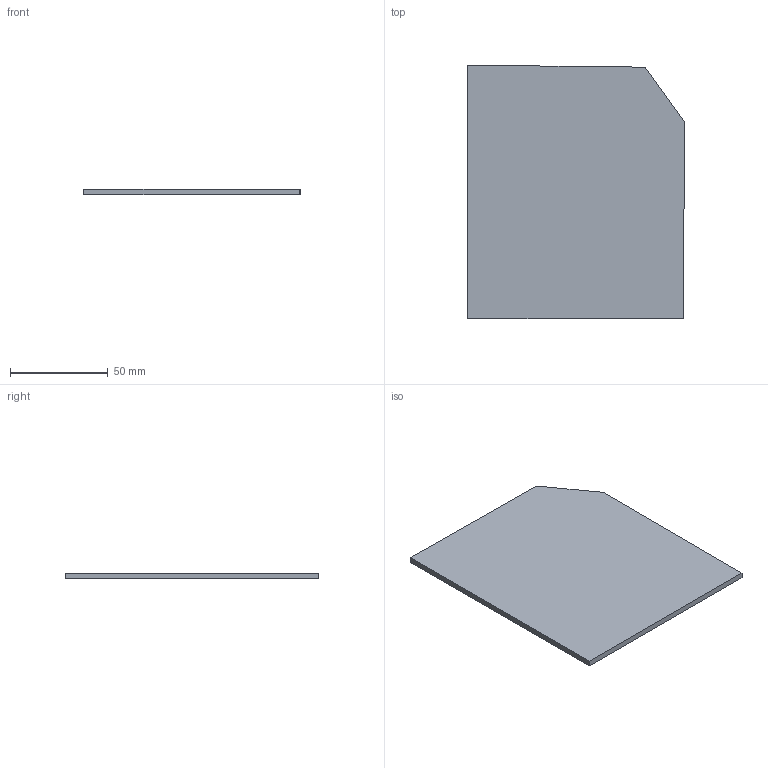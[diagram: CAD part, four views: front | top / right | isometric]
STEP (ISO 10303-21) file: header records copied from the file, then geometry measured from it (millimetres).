
FILE_DESCRIPTION(('Open CASCADE Model'),'2;1');
FILE_NAME('Open CASCADE Shape Model','2026-11-03T04:29:35',('Author'),( 'Open CASCADE'),'Open CASCADE STEP processor 7.8','Open CASCADE 7.8' ,'Unknown');
FILE_SCHEMA(('AUTOMOTIVE_DESIGN { 1 0 10303 214 1 1 1 1 }'));
Length unit declared in the file: millimetre
Products named in the file (1): Open CASCADE STEP translator 7.8 27
Bounding box: 111 x 130 x 3 mm (x, y, z)
Volume: 42208 mm3; surface area: 29540 mm2
Topology: 1 solids, 1 shells, 7 faces, 15 edges, 10 vertices
Faces by surface type: plane 7
Entity records: 394 total; most frequent: CARTESIAN_POINT 63, DIRECTION 61, LINE 45, VECTOR 45, ORIENTED_EDGE 30, PCURVE 30, DEFINITIONAL_REPRESENTATION 30, EDGE_CURVE 15
